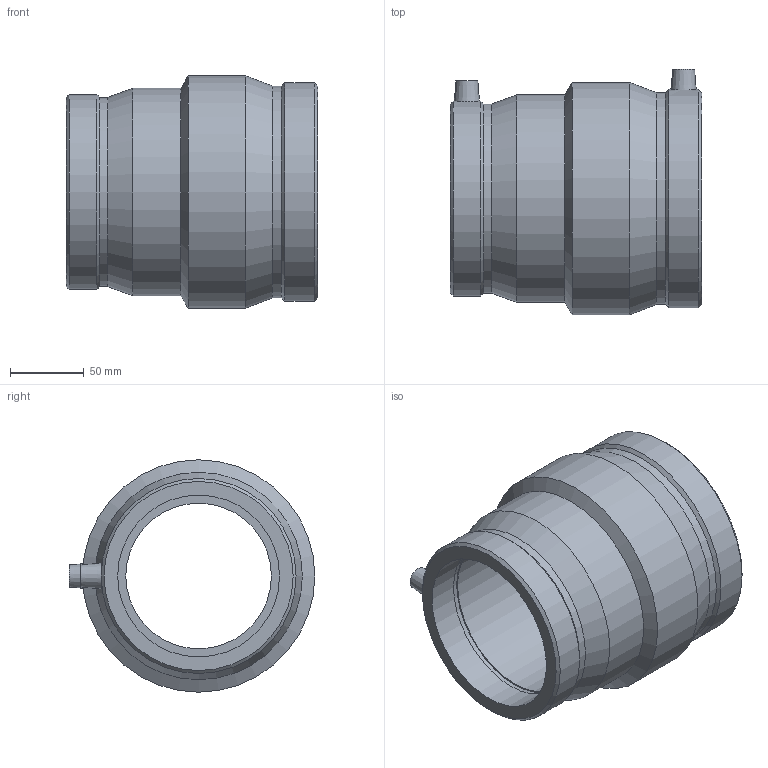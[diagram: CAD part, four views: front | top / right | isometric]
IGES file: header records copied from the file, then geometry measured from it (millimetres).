
Global section: file name: 491104125110.ipt; native system: Autodesk Inventor 2015; preprocessor: unknown; author: KIM; date: 20171106.093739; units: millimetre
Bounding box: 171 x 167 x 158 mm (x, y, z)
Volume: 984691.1 mm3; surface area: 161844.4 mm2
Topology: 1 solids, 1 shells, 39 faces, 87 edges, 58 vertices
Faces by surface type: plane 12, revolution 10, cone 9, cylinder 8
Full cylindrical faces by diameter (mm): 4 x2, 128.564 x1, 132.54 x1, 141 x1, 144.064 x1, 148.52 x1, 158 x1
